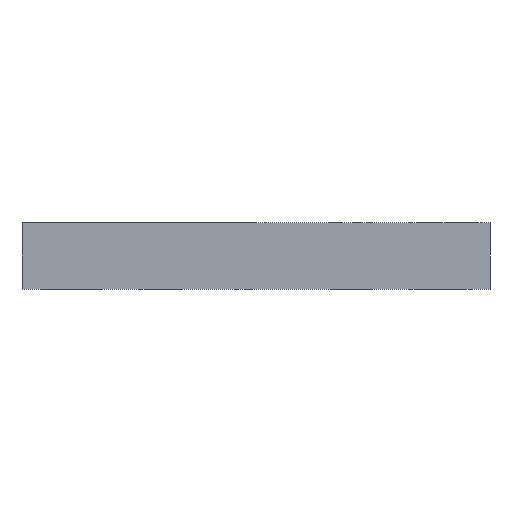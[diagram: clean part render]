
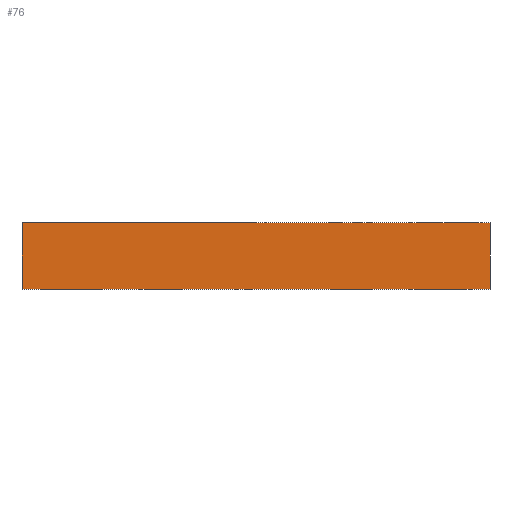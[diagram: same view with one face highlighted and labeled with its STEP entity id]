
A CAD part, left-side view. The second image highlights one B-rep face of the part: STEP entity #76.
In plain terms, the highlighted planar face has unit normal (-1, 0, 0).
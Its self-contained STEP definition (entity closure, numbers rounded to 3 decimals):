
#76=ADVANCED_FACE('',(#168),#167,.T.);
#167=PLANE('',#861);
#168=FACE_OUTER_BOUND('',#862,.T.);
#858=CARTESIAN_POINT('',(-35.,42.,-11.));
#859=DIRECTION('',(-1.,0.,0.));
#860=DIRECTION('',(0.,-1.,0.));
#861=AXIS2_PLACEMENT_3D('',#858,#859,#860);
#862=EDGE_LOOP('',(#1287,#1288,#1289,#1290));
#1287=ORIENTED_EDGE('',*,*,#1579,.F.);
#1288=ORIENTED_EDGE('',*,*,#1615,.F.);
#1289=ORIENTED_EDGE('',*,*,#1616,.T.);
#1290=ORIENTED_EDGE('',*,*,#1617,.T.);
#1579=EDGE_CURVE('',#1743,#1744,#1745,.T.);
#1615=EDGE_CURVE('',#1995,#1743,#1996,.T.);
#1616=EDGE_CURVE('',#1995,#2002,#2003,.T.);
#1617=EDGE_CURVE('',#2002,#1744,#2009,.T.);
#1743=VERTEX_POINT('',#2831);
#1744=VERTEX_POINT('',#2832);
#1745=LINE('',#2833,#2834);
#1995=VERTEX_POINT('',#3007);
#1996=LINE('',#3008,#3009);
#2002=VERTEX_POINT('',#3011);
#2003=LINE('',#3012,#3013);
#2009=LINE('',#3015,#3016);
#2831=CARTESIAN_POINT('',(-35.,35.,0.));
#2832=CARTESIAN_POINT('',(-35.,-35.,0.));
#2833=CARTESIAN_POINT('',(-35.,35.,0.));
#2834=VECTOR('',#2835,70.);
#2835=DIRECTION('',(0.,-1.,0.));
#3007=CARTESIAN_POINT('',(-35.,35.,-10.));
#3008=CARTESIAN_POINT('',(-35.,35.,-10.));
#3009=VECTOR('',#3010,10.);
#3010=DIRECTION('',(0.,0.,1.));
#3011=CARTESIAN_POINT('',(-35.,-35.,-10.));
#3012=CARTESIAN_POINT('',(-35.,35.,-10.));
#3013=VECTOR('',#3014,70.);
#3014=DIRECTION('',(0.,-1.,0.));
#3015=CARTESIAN_POINT('',(-35.,-35.,-10.));
#3016=VECTOR('',#3017,10.);
#3017=DIRECTION('',(0.,0.,1.));
